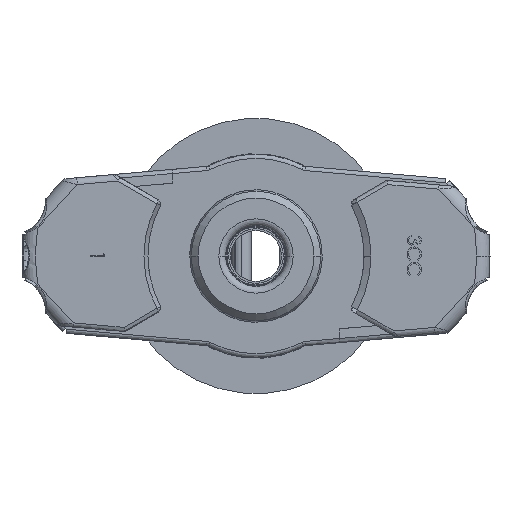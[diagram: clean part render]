
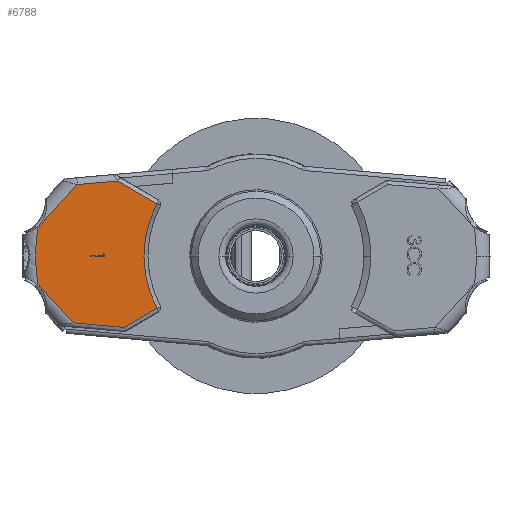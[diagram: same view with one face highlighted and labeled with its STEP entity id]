
A CAD part, front view. The second image highlights one B-rep face of the part: STEP entity #6788.
In plain terms, the highlighted planar face has unit normal (0, -1, 0).
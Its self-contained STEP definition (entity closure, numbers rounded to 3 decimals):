
#219 = VERTEX_POINT ( 'NONE', #7370 ) ;
#259 = ORIENTED_EDGE ( 'NONE', *, *, #2374, .T. ) ;
#342 = ORIENTED_EDGE ( 'NONE', *, *, #19206, .T. ) ;
#564 = CARTESIAN_POINT ( 'NONE',  ( -28., -131.005, -38.858 ) ) ;
#928 = CARTESIAN_POINT ( 'NONE',  ( -28., -131.005, -39.043 ) ) ;
#1167 = DIRECTION ( 'NONE',  ( -0.996, 0., -0.087 ) ) ;
#1240 = VERTEX_POINT ( 'NONE', #24144 ) ;
#1396 = ORIENTED_EDGE ( 'NONE', *, *, #3812, .T. ) ;
#1763 = LINE ( 'NONE', #24393, #13588 ) ;
#2374 = EDGE_CURVE ( 'NONE', #19545, #21488, #5801, .T. ) ;
#2542 = EDGE_CURVE ( 'NONE', #1240, #16591, #13254, .T. ) ;
#2647 = DIRECTION ( 'NONE',  ( 1., 0., 0. ) ) ;
#3051 = LINE ( 'NONE', #9260, #17404 ) ;
#3052 = VERTEX_POINT ( 'NONE', #16677 ) ;
#3091 = VECTOR ( 'NONE', #22814, 1000. ) ;
#3195 = CARTESIAN_POINT ( 'NONE',  ( -17., -131.005, -55.992 ) ) ;
#3353 = DIRECTION ( 'NONE',  ( -0.676, 0., -0.737 ) ) ;
#3812 = EDGE_CURVE ( 'NONE', #19643, #8034, #22411, .T. ) ;
#3816 = EDGE_CURVE ( 'NONE', #21061, #18093, #16609, .T. ) ;
#3868 = CARTESIAN_POINT ( 'NONE',  ( -24.198, -131.005, -42.801 ) ) ;
#4156 = FACE_BOUND ( 'NONE', #24130, .T. ) ;
#4523 = CARTESIAN_POINT ( 'NONE',  ( -28.103, -131.005, -38.799 ) ) ;
#4631 = EDGE_CURVE ( 'NONE', #219, #19643, #23695, .T. ) ;
#4847 = VECTOR ( 'NONE', #3353, 1000. ) ;
#5098 = VECTOR ( 'NONE', #13819, 1000. ) ;
#5741 = ORIENTED_EDGE ( 'NONE', *, *, #3816, .T. ) ;
#5801 = LINE ( 'NONE', #14290, #12284 ) ;
#6112 = EDGE_CURVE ( 'NONE', #22963, #3052, #3051, .T. ) ;
#6128 = VECTOR ( 'NONE', #14153, 1000. ) ;
#6381 = DIRECTION ( 'NONE',  ( 0., 0., 1. ) ) ;
#6504 = CARTESIAN_POINT ( 'NONE',  ( -28.103, -131.005, -38.953 ) ) ;
#6676 = CARTESIAN_POINT ( 'NONE',  ( -17., -131.005, -38.992 ) ) ;
#6788 = ADVANCED_FACE ( 'NONE', ( #4156, #12396 ), #20671, .T. ) ;
#6953 = CARTESIAN_POINT ( 'NONE',  ( -26.579, -131.005, -44.176 ) ) ;
#7065 = DIRECTION ( 'NONE',  ( 1., 0., 0. ) ) ;
#7370 = CARTESIAN_POINT ( 'NONE',  ( -29., -131.005, -39.043 ) ) ;
#7385 = EDGE_CURVE ( 'NONE', #3052, #11363, #19478, .T. ) ;
#8034 = VERTEX_POINT ( 'NONE', #24159 ) ;
#8055 = ORIENTED_EDGE ( 'NONE', *, *, #6112, .T. ) ;
#8769 = CARTESIAN_POINT ( 'NONE',  ( -32.871, -131.005, -36.963 ) ) ;
#8827 = CARTESIAN_POINT ( 'NONE',  ( -28.103, -131.005, -38.799 ) ) ;
#9176 = DIRECTION ( 'NONE',  ( 0., 0., -1. ) ) ;
#9260 = CARTESIAN_POINT ( 'NONE',  ( -19.025, -131.005, -32.845 ) ) ;
#9269 = DIRECTION ( 'NONE',  ( 0., -1., 0. ) ) ;
#9665 = CARTESIAN_POINT ( 'NONE',  ( -26.661, -131.005, -33.76 ) ) ;
#10158 = EDGE_CURVE ( 'NONE', #19297, #1240, #11246, .T. ) ;
#11246 = LINE ( 'NONE', #8827, #19866 ) ;
#11363 = VERTEX_POINT ( 'NONE', #8769 ) ;
#11433 = VECTOR ( 'NONE', #9176, 1000. ) ;
#11457 = ORIENTED_EDGE ( 'NONE', *, *, #21847, .T. ) ;
#12041 = CARTESIAN_POINT ( 'NONE',  ( -26.485, -131.005, -44.184 ) ) ;
#12085 = DIRECTION ( 'NONE',  ( -0.866, 0., 0.5 ) ) ;
#12252 = DIRECTION ( 'NONE',  ( 0.676, 0., -0.737 ) ) ;
#12284 = VECTOR ( 'NONE', #12252, 1000. ) ;
#12333 = CARTESIAN_POINT ( 'NONE',  ( -32.871, -131.005, -41.02 ) ) ;
#12376 = DIRECTION ( 'NONE',  ( 1., 0., 0. ) ) ;
#12396 = FACE_OUTER_BOUND ( 'NONE', #24208, .T. ) ;
#12983 = CARTESIAN_POINT ( 'NONE',  ( -29., -131.005, -38.953 ) ) ;
#13254 = LINE ( 'NONE', #564, #11433 ) ;
#13380 = VECTOR ( 'NONE', #13669, 1000. ) ;
#13588 = VECTOR ( 'NONE', #20171, 1000. ) ;
#13669 = DIRECTION ( 'NONE',  ( 0., 0., 1. ) ) ;
#13819 = DIRECTION ( 'NONE',  ( 0.996, 0., -0.087 ) ) ;
#14153 = DIRECTION ( 'NONE',  ( 0.866, 0., 0.5 ) ) ;
#14157 = CARTESIAN_POINT ( 'NONE',  ( -17., -131.005, -38.992 ) ) ;
#14280 = EDGE_CURVE ( 'NONE', #18093, #25658, #26594, .T. ) ;
#14290 = CARTESIAN_POINT ( 'NONE',  ( -18.17, -131.005, -57.064 ) ) ;
#14555 = CARTESIAN_POINT ( 'NONE',  ( -29., -131.005, -38.953 ) ) ;
#14920 = AXIS2_PLACEMENT_3D ( 'NONE', #14157, #26347, #12376 ) ;
#15165 = ORIENTED_EDGE ( 'NONE', *, *, #4631, .T. ) ;
#15833 = ORIENTED_EDGE ( 'NONE', *, *, #22921, .T. ) ;
#16470 = ORIENTED_EDGE ( 'NONE', *, *, #7385, .T. ) ;
#16591 = VERTEX_POINT ( 'NONE', #928 ) ;
#16609 = LINE ( 'NONE', #3868, #6128 ) ;
#16677 = CARTESIAN_POINT ( 'NONE',  ( -29.975, -131.005, -33.803 ) ) ;
#16687 = LINE ( 'NONE', #6504, #19739 ) ;
#17121 = DIRECTION ( 'NONE',  ( 0.868, 0., -0.497 ) ) ;
#17404 = VECTOR ( 'NONE', #1167, 1000. ) ;
#17523 = DIRECTION ( 'NONE',  ( 0., -1., 0. ) ) ;
#17782 = LINE ( 'NONE', #12041, #5098 ) ;
#17936 = CARTESIAN_POINT ( 'NONE',  ( -30.275, -131.005, -43.853 ) ) ;
#18093 = VERTEX_POINT ( 'NONE', #22888 ) ;
#18489 = AXIS2_PLACEMENT_3D ( 'NONE', #6676, #17523, #7065 ) ;
#18971 = CARTESIAN_POINT ( 'NONE',  ( -27.032, -131.005, -33.546 ) ) ;
#19119 = VECTOR ( 'NONE', #12085, 1000. ) ;
#19206 = EDGE_CURVE ( 'NONE', #25658, #22963, #21881, .T. ) ;
#19297 = VERTEX_POINT ( 'NONE', #4523 ) ;
#19478 = LINE ( 'NONE', #19867, #4847 ) ;
#19492 = CARTESIAN_POINT ( 'NONE',  ( -29., -131.005, -39.043 ) ) ;
#19545 = VERTEX_POINT ( 'NONE', #12333 ) ;
#19643 = VERTEX_POINT ( 'NONE', #12983 ) ;
#19739 = VECTOR ( 'NONE', #6381, 1000. ) ;
#19866 = VECTOR ( 'NONE', #17121, 1000. ) ;
#19867 = CARTESIAN_POINT ( 'NONE',  ( -35.105, -131.005, -39.401 ) ) ;
#20171 = DIRECTION ( 'NONE',  ( -1., 0., 0. ) ) ;
#20671 = PLANE ( 'NONE',  #26034 ) ;
#20762 = ORIENTED_EDGE ( 'NONE', *, *, #2542, .T. ) ;
#21061 = VERTEX_POINT ( 'NONE', #6953 ) ;
#21303 = ORIENTED_EDGE ( 'NONE', *, *, #24239, .T. ) ;
#21438 = CARTESIAN_POINT ( 'NONE',  ( -24.194, -131.005, -35.185 ) ) ;
#21488 = VERTEX_POINT ( 'NONE', #17936 ) ;
#21847 = EDGE_CURVE ( 'NONE', #16591, #219, #1763, .T. ) ;
#21881 = LINE ( 'NONE', #9665, #19119 ) ;
#22411 = LINE ( 'NONE', #14555, #3091 ) ;
#22710 = ORIENTED_EDGE ( 'NONE', *, *, #23494, .T. ) ;
#22814 = DIRECTION ( 'NONE',  ( 1., 0., 0. ) ) ;
#22888 = CARTESIAN_POINT ( 'NONE',  ( -24.194, -131.005, -42.798 ) ) ;
#22921 = EDGE_CURVE ( 'NONE', #8034, #19297, #16687, .T. ) ;
#22963 = VERTEX_POINT ( 'NONE', #18971 ) ;
#23078 = ORIENTED_EDGE ( 'NONE', *, *, #14280, .T. ) ;
#23494 = EDGE_CURVE ( 'NONE', #11363, #19545, #25391, .T. ) ;
#23647 = ORIENTED_EDGE ( 'NONE', *, *, #10158, .T. ) ;
#23695 = LINE ( 'NONE', #19492, #13380 ) ;
#24130 = EDGE_LOOP ( 'NONE', ( #23647, #20762, #11457, #15165, #1396, #15833 ) ) ;
#24144 = CARTESIAN_POINT ( 'NONE',  ( -28., -131.005, -38.858 ) ) ;
#24159 = CARTESIAN_POINT ( 'NONE',  ( -28.103, -131.005, -38.953 ) ) ;
#24208 = EDGE_LOOP ( 'NONE', ( #23078, #342, #8055, #16470, #22710, #259, #21303, #5741 ) ) ;
#24239 = EDGE_CURVE ( 'NONE', #21488, #21061, #17782, .T. ) ;
#24393 = CARTESIAN_POINT ( 'NONE',  ( -28., -131.005, -39.043 ) ) ;
#25391 = CIRCLE ( 'NONE', #18489, 16. ) ;
#25658 = VERTEX_POINT ( 'NONE', #21438 ) ;
#26034 = AXIS2_PLACEMENT_3D ( 'NONE', #3195, #9269, #2647 ) ;
#26347 = DIRECTION ( 'NONE',  ( 0., 1., 0. ) ) ;
#26594 = CIRCLE ( 'NONE', #14920, 8.139 ) ;
